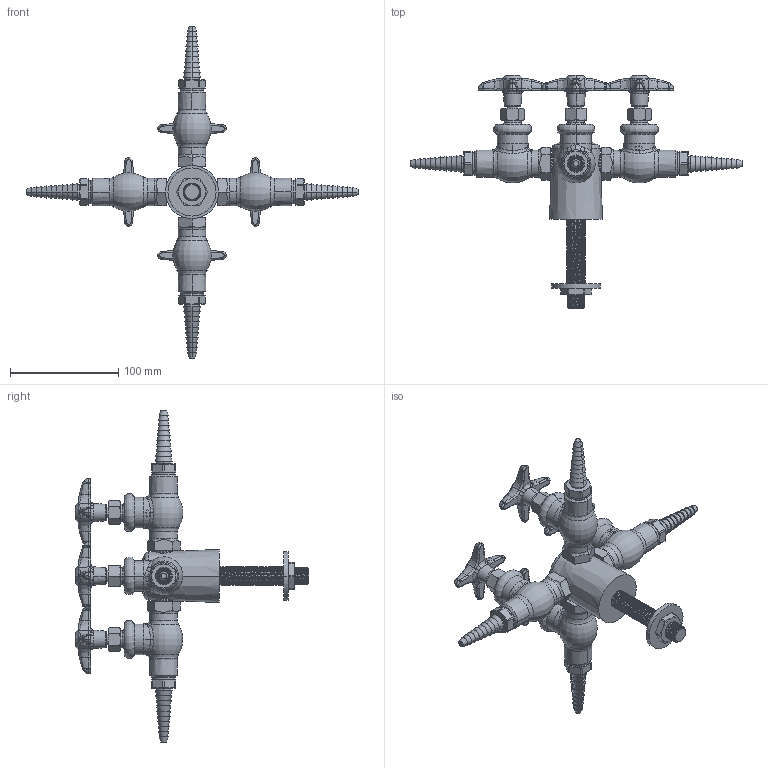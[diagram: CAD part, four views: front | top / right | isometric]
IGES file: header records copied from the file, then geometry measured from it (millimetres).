
Start section:  PTC IGES file: LGF1-A11K-40.igs
Global section: file name: LGF1-A11K-40.igs; native system: Creo Parametric by PTC Inc.; preprocessor: 2014500; author: usch_engrender; organization: Unknown; date: 20160107.154305; units: inch
Bounding box: 307.24 x 215.83 x 307.24 mm (x, y, z)
Volume: 492726.5 mm3; surface area: 106700.1 mm2
Topology: 1 solids, 18 shells, 1604 faces, 3841 edges, 2339 vertices
Faces by surface type: bspline 959, revolution 645
